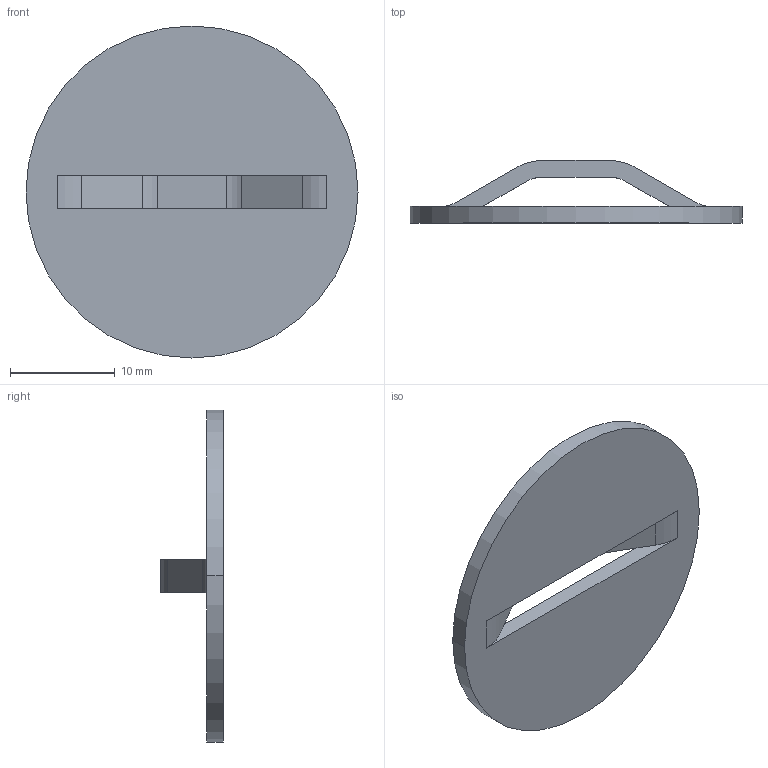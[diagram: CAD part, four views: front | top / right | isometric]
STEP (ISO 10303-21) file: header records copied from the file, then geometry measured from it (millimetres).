
FILE_DESCRIPTION (( 'STEP AP203' ), '1' );
FILE_NAME ('844342-10 -BRIDGE LANCE SGL .125W X.257X.173H-.063THK.STEP', '2024-11-18T17:20:07', ( '' ), ( '' ), 'SwSTEP 2.0', 'SolidWorks 2024', '' );
FILE_SCHEMA (( 'CONFIG_CONTROL_DESIGN' ));
Length unit declared in the file: inch
Products named in the file (1): 844342-10 -BRIDGE LANCE SGL .125W X.257X.173H-.063THK
Bounding box: 31.75 x 5.99 x 31.75 mm (x, y, z)
Volume: 1277.9 mm3; surface area: 1896.6 mm2
Topology: 1 solids, 1 shells, 22 faces, 62 edges, 40 vertices
Faces by surface type: plane 12, cylinder 10
Entity records: 801 total; most frequent: DIRECTION 128, CARTESIAN_POINT 125, ORIENTED_EDGE 124, EDGE_CURVE 62, AXIS2_PLACEMENT_3D 43, VECTOR 42, LINE 42, VERTEX_POINT 40
